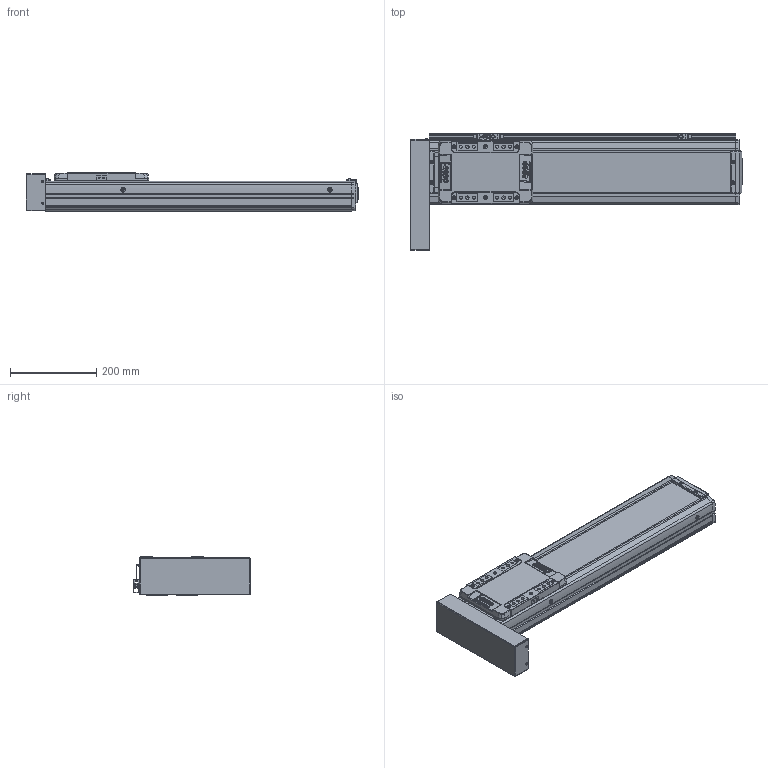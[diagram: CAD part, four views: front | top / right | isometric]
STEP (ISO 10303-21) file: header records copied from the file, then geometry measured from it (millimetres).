
FILE_DESCRIPTION(('STEP AP214'),'1');
FILE_NAME('Z:/Web/3D/SAN150/2013.04 (STP.)/SAN150ㅁㅁ-450PR+3SL.stp','2013-05-07T23:42:26',(' '),(' '),'Spatial InterOp 3D',' ',' ');
FILE_SCHEMA(('automotive_design'));
Length unit declared in the file: millimetre
Products named in the file (58): BHCS M3.0 x 6.0; P; SLBL-SAN150; SLCV-SAN150; FHCS M4.0 x 8.0; BHCS M4.0 x 10.0; SFX-SAN150; RRCV-SAN150; FRBL-SAN150; Spacer; RN15; FRCV-SAN150; Screw 20; BASE-SAN150-000L ; SUS COVER; 스크루 : Round - M5.0 x 6.0; M3.0 x 6.0; SRL-16x17-360L; SGD-SAN150; EE-SX674; SBK-SX674-352; 스크루 : Round - M3.0 x 6.0
Bounding box: 770 x 273.36 x 90 mm (x, y, z)
Volume: 5368008.9 mm3; surface area: 980272.6 mm2
Topology: 58 solids, 58 shells, 2598 faces, 6675 edges, 4288 vertices
Faces by surface type: plane 1386, cylinder 833, cone 266, sphere 80, bspline 21, torus 12
Entity records: 102566 total; most frequent: CARTESIAN_POINT 16097, DIRECTION 14112, ORIENTED_EDGE 13126, EDGE_CURVE 6563, AXIS2_PLACEMENT_3D 4998, VERTEX_POINT 4288, LINE 4116, VECTOR 4116
